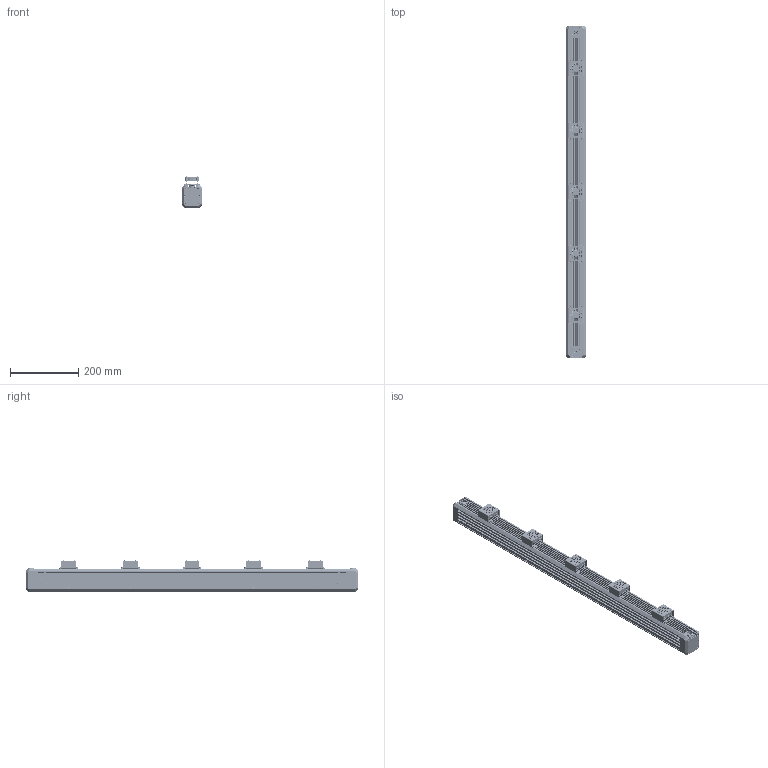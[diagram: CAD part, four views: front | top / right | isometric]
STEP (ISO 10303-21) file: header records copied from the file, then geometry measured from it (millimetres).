
FILE_DESCRIPTION((''),'2;1');
FILE_NAME('MV-LTDS-H-900-W_ASM_1_ASM','2025-06-03T15:17:42',('huguozhe'),(''),'CREO PARAMETRIC BY PTC INC, 2020044','CREO PARAMETRIC BY PTC INC, 2020044','');
FILE_SCHEMA(('AUTOMOTIVE_DESIGN { 1 0 10303 214 1 1 1 1 }'));
Products named in the file (25): DE-15-000638_1; DE-15-000637_ASM_1_ASM; DE-15-000640_1; DE-15-000639_ASM_1_ASM; SC-HSCM3X6B-GB70_1_1; DE-12-001673_1; SC-AM3X10NL-BNI-SCM435-GB70_1_1; SC-HSCM3X8-SUS316_1; DE-11-019911_1; 8002-CLS-M3-1_1; DE-11-019911_ASM_1_ASM; 101800527_01_1; 101800527_02_1; 101800527_MGA4012HB-O10_ASM_1_ASM; SC-ASFM3X14NL-BNI-SUS316L_1; NUT-M4-GB6170_1; DE-14-015560_1_1_1; DE-14-016113_ASM_1_1_ASM_1_ASM; DE-14-016113_ASM_ASM_1_ASM; 19M-H_2_1_1_1; 19M-8H-8P_1_1; 19M-8H_ASM_1_ASM_1_ASM; 19M-8H_ASM_ASM_1_ASM; DE-14-016113-19M-8H_ASM; MV-LTDS-H-900-W_ASM_1_ASM
Assembly tree (106 placements, depth 5):
  MV-LTDS-H-900-W_ASM_1_ASM
    DE-15-000637_ASM_1_ASM
      DE-15-000638_1
    DE-15-000639_ASM_1_ASM  x2
      DE-15-000640_1
    SC-HSCM3X6B-GB70_1_1  x10
    DE-12-001673_1
    SC-AM3X10NL-BNI-SCM435-GB70_1_1  x28
    SC-HSCM3X8-SUS316_1  x8
    DE-11-019911_ASM_1_ASM  x5
      DE-11-019911_1
      8002-CLS-M3-1_1
    101800527_MGA4012HB-O10_ASM_1_ASM  x5
      101800527_01_1
      101800527_02_1
    SC-ASFM3X14NL-BNI-SUS316L_1  x20
    NUT-M4-GB6170_1  x8
    DE-14-016113-19M-8H_ASM  x2
      DE-14-016113_ASM_ASM_1_ASM
        DE-14-016113_ASM_1_1_ASM_1_ASM
          DE-14-015560_1_1_1
      19M-8H_ASM_ASM_1_ASM
        19M-8H_ASM_1_ASM_1_ASM
          19M-H_2_1_1_1
          19M-8H-8P_1_1
Bounding box: 58 x 970 x 90.6 mm (x, y, z)
Volume: 2964558.5 mm3; surface area: 834255.3 mm2
Topology: 119 solids, 325 shells, 6525 faces, 17476 edges, 11281 vertices
Faces by surface type: plane 2949, cylinder 2298, cone 860, torus 326, bspline 60, sphere 32
Entity records: 78291 total; most frequent: CARTESIAN_POINT 23270, DIRECTION 10601, ORIENTED_EDGE 9288, EDGE_CURVE 4810, AXIS2_PLACEMENT_3D 4119, VERTEX_POINT 3203, VECTOR 2363, LINE 2363
